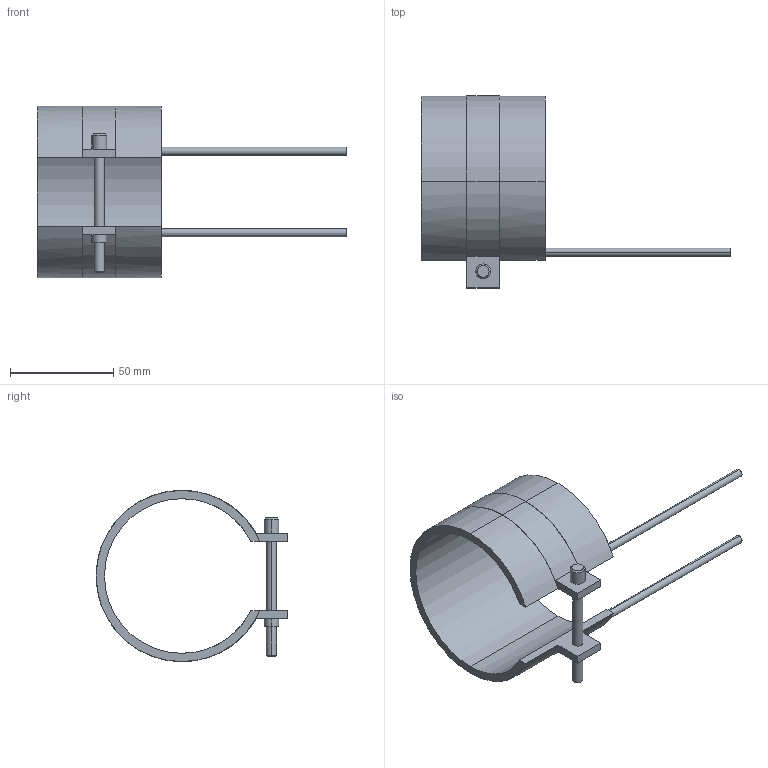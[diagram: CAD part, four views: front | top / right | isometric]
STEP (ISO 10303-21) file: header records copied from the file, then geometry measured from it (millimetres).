
FILE_DESCRIPTION(('CATIA V5 STEP Exchange'),'2;1');
FILE_NAME('C:\Users\Utente\Desktop\IO LAVORO\3D X SITO CF\X SITO\PLASTICA\RF2\14075060.stp','2021-04-03T08:42:16+00:00',('none'),('none'),'CATIA Version 5 Release 20 GA (IN-10)','CATIA V5 STEP AP203','none');
FILE_SCHEMA(('CONFIG_CONTROL_DESIGN'));
Length unit declared in the file: millimetre
Products named in the file (1): 14075060
Bounding box: 150 x 93.1 x 83.2 mm (x, y, z)
Volume: 57115.4 mm3; surface area: 32280.7 mm2
Topology: 1 solids, 1 shells, 45 faces, 116 edges, 76 vertices
Faces by surface type: cylinder 24, plane 17, cone 4
Entity records: 1406 total; most frequent: CARTESIAN_POINT 280, ORIENTED_EDGE 232, DIRECTION 196, EDGE_CURVE 116, AXIS2_PLACEMENT_3D 104, VERTEX_POINT 76, CIRCLE 62, VECTOR 52
